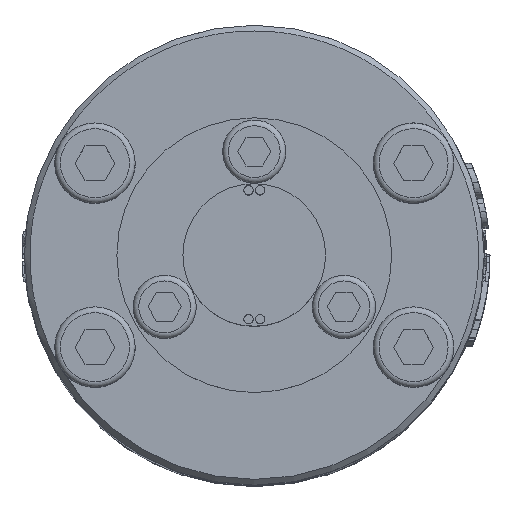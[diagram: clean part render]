
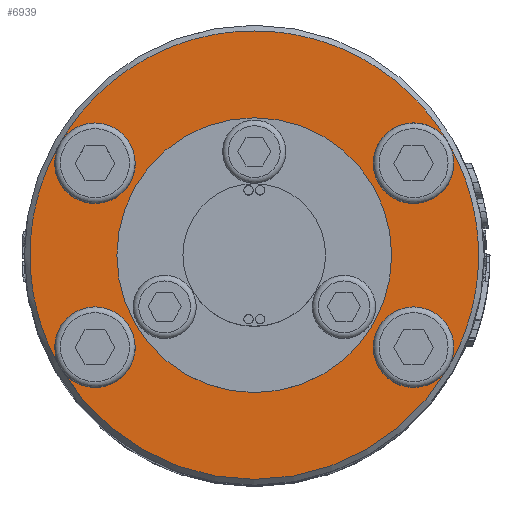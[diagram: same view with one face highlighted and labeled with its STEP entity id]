
A CAD part, top view. The second image highlights one B-rep face of the part: STEP entity #6939.
In plain terms, the highlighted planar face has unit normal (0, 0, 1).
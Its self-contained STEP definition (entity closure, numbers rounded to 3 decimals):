
#4049=PLANE('',#28894);
#6939=ADVANCED_FACE('',(#10844,#10845),#4049,.T.);
#10844=FACE_BOUND('',#12630,.T.);
#10845=FACE_BOUND('',#12631,.T.);
#12630=EDGE_LOOP('',(#20567,#20568,#20569,#20570,#20571,#20572,#20573,#20574));
#12631=EDGE_LOOP('',(#20575));
#20567=ORIENTED_EDGE('',*,*,#27414,.T.);
#20568=ORIENTED_EDGE('',*,*,#27335,.F.);
#20569=ORIENTED_EDGE('',*,*,#27413,.T.);
#20570=ORIENTED_EDGE('',*,*,#27398,.F.);
#20571=ORIENTED_EDGE('',*,*,#27412,.T.);
#20572=ORIENTED_EDGE('',*,*,#27377,.F.);
#20573=ORIENTED_EDGE('',*,*,#27415,.T.);
#20574=ORIENTED_EDGE('',*,*,#27356,.F.);
#20575=ORIENTED_EDGE('',*,*,#27322,.F.);
#23354=VERTEX_POINT('',#57561);
#23367=VERTEX_POINT('',#57597);
#23382=VERTEX_POINT('',#57643);
#23397=VERTEX_POINT('',#57689);
#23412=VERTEX_POINT('',#57735);
#27322=EDGE_CURVE('',#23354,#23354,#27733,.T.);
#27335=EDGE_CURVE('',#23367,#23367,#27740,.T.);
#27356=EDGE_CURVE('',#23382,#23382,#27743,.T.);
#27377=EDGE_CURVE('',#23397,#23397,#27746,.T.);
#27398=EDGE_CURVE('',#23412,#23412,#27749,.T.);
#27412=EDGE_CURVE('',#23412,#23397,#27751,.T.);
#27413=EDGE_CURVE('',#23367,#23412,#27752,.T.);
#27414=EDGE_CURVE('',#23382,#23367,#27753,.T.);
#27415=EDGE_CURVE('',#23397,#23382,#27754,.T.);
#27733=CIRCLE('',#28819,11.95);
#27740=CIRCLE('',#28836,3.5);
#27743=CIRCLE('',#28849,3.5);
#27746=CIRCLE('',#28862,3.5);
#27749=CIRCLE('',#28875,3.5);
#27751=CIRCLE('',#28887,19.5);
#27752=CIRCLE('',#28888,19.5);
#27753=CIRCLE('',#28889,19.5);
#27754=CIRCLE('',#28890,19.5);
#28819=AXIS2_PLACEMENT_3D('',#57560,#32501,#32502);
#28836=AXIS2_PLACEMENT_3D('',#57596,#32541,#32542);
#28849=AXIS2_PLACEMENT_3D('',#57642,#32585,#32586);
#28862=AXIS2_PLACEMENT_3D('',#57688,#32629,#32630);
#28875=AXIS2_PLACEMENT_3D('',#57734,#32673,#32674);
#28887=AXIS2_PLACEMENT_3D('',#57766,#32709,#32710);
#28888=AXIS2_PLACEMENT_3D('',#57767,#32711,#32712);
#28889=AXIS2_PLACEMENT_3D('',#57768,#32713,#32714);
#28890=AXIS2_PLACEMENT_3D('',#57769,#32715,#32716);
#28894=AXIS2_PLACEMENT_3D('',#57774,#32723,#32724);
#32501=DIRECTION('',(0.,0.,1.));
#32502=DIRECTION('',(0.,1.,0.));
#32541=DIRECTION('',(0.,0.,1.));
#32542=DIRECTION('',(1.,0.,0.));
#32585=DIRECTION('',(0.,0.,1.));
#32586=DIRECTION('',(1.,0.,0.));
#32629=DIRECTION('',(0.,0.,1.));
#32630=DIRECTION('',(1.,0.,0.));
#32673=DIRECTION('',(0.,0.,1.));
#32674=DIRECTION('',(1.,0.,0.));
#32709=DIRECTION('',(0.,0.,1.));
#32710=DIRECTION('',(1.,0.,0.));
#32711=DIRECTION('',(0.,0.,1.));
#32712=DIRECTION('',(1.,0.,0.));
#32713=DIRECTION('',(0.,0.,1.));
#32714=DIRECTION('',(1.,0.,0.));
#32715=DIRECTION('',(0.,0.,1.));
#32716=DIRECTION('',(1.,0.,0.));
#32723=DIRECTION('',(0.,0.,1.));
#32724=DIRECTION('',(1.,0.,0.));
#57560=CARTESIAN_POINT('',(0.,0.,94.));
#57561=CARTESIAN_POINT('',(0.,11.95,94.));
#57596=CARTESIAN_POINT('',(13.856,8.,94.));
#57597=CARTESIAN_POINT('',(16.887,9.75,94.));
#57642=CARTESIAN_POINT('',(13.856,-8.,94.));
#57643=CARTESIAN_POINT('',(16.887,-9.75,94.));
#57688=CARTESIAN_POINT('',(-13.856,-8.,94.));
#57689=CARTESIAN_POINT('',(-16.887,-9.75,94.));
#57734=CARTESIAN_POINT('',(-13.856,8.,94.));
#57735=CARTESIAN_POINT('',(-16.887,9.75,94.));
#57766=CARTESIAN_POINT('',(0.,0.,94.));
#57767=CARTESIAN_POINT('',(0.,0.,94.));
#57768=CARTESIAN_POINT('',(0.,0.,94.));
#57769=CARTESIAN_POINT('',(0.,0.,94.));
#57774=CARTESIAN_POINT('',(0.,0.,94.));
